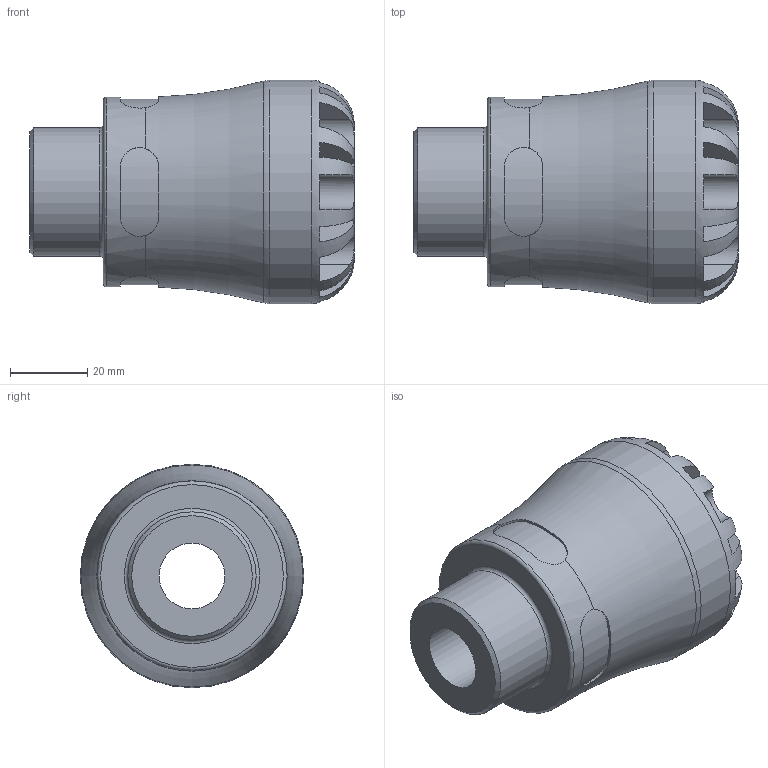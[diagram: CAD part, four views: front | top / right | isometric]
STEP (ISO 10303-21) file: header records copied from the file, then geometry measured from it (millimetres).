
FILE_DESCRIPTION(/* description */ ('PLASSON MALE ADAPTOR 1''''CTS x 1''''NPT SERIES 1'),/* implementation_level */ '2;1');
FILE_NAME(/* name */ 'C:\Dropbox\KIMPROJECTS-Inventor 2019\99-16-3568-Processing Inch\ASTM S1 2021\1002Z\1002Z0010010.stp',/* time_stamp */ '2021-09-02T14:36:59+03:00',/* author */ ('KIM'),/* organization */ (''),/* preprocessor_version */ 'ST-DEVELOPER v17.2',/* originating_system */ 'Autodesk Inventor 2019',/* authorisation */ '');
FILE_SCHEMA (('AUTOMOTIVE_DESIGN { 1 0 10303 214 3 1 1 }'));
Length unit declared in the file: inch
Products named in the file (1): 1002Z0010010
Bounding box: 84.07 x 57.91 x 57.91 mm (x, y, z)
Volume: 112003.4 mm3; surface area: 24855.9 mm2
Topology: 1 solids, 1 shells, 100 faces, 273 edges, 177 vertices
Faces by surface type: plane 60, cylinder 33, torus 5, cone 2
Full cylindrical faces by diameter (mm): 17.07 x1, 28.45 x1, 33.249 x1, 49.225 x1, 57.912 x1
Entity records: 4125 total; most frequent: CARTESIAN_POINT 1507, ORIENTED_EDGE 546, DIRECTION 517, EDGE_CURVE 273, AXIS2_PLACEMENT_3D 215, VERTEX_POINT 177, CIRCLE 114, EDGE_LOOP 104
